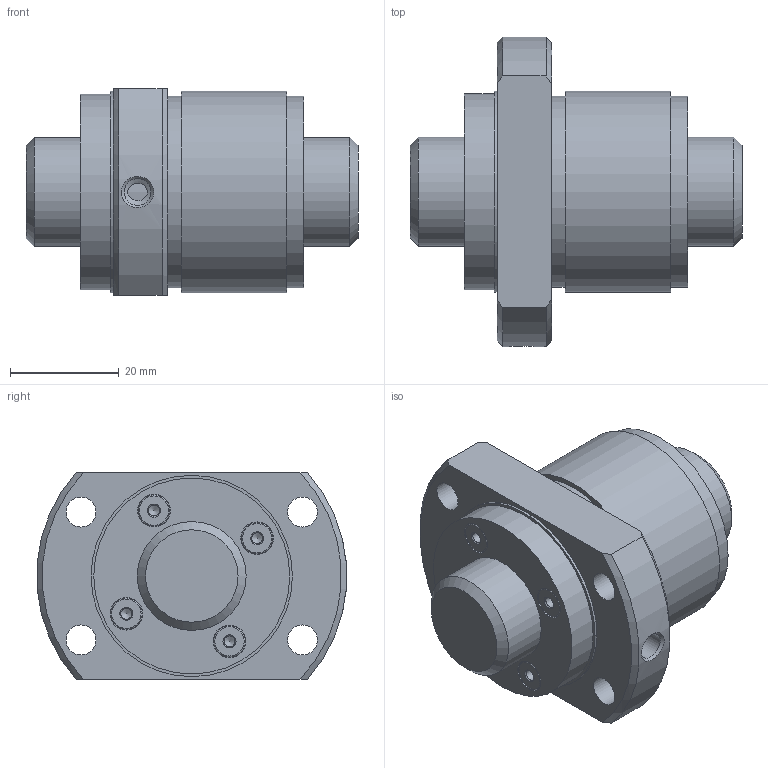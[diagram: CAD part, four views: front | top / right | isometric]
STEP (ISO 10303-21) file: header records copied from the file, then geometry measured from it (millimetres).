
FILE_DESCRIPTION(/* description */ ('STEP AP203'),/* implementation_level */ '2;1');
FILE_NAME(/* name */ 'WGF2040-1G1+61LC3_0_13_0_0',/* time_stamp */ '2025-01-16T06:25:42+01:00',/* author */ ('License CC BY-ND 4.0'),/* organization */ ('CADENAS'),/* preprocessor_version */ 'ST-DEVELOPER v19.3',/* originating_system */ 'PARTsolutions',/* authorisation */ ' ');
FILE_SCHEMA (('CONFIG_CONTROL_DESIGN'));
Length unit declared in the file: millimetre
Products named in the file (3): WGF2040-1G1+61LC3_0_13_0_0; 0130WGF2040-10Shaft; RR0130WGF2040-1Nut
Assembly tree (2 placements, depth 2):
  WGF2040-1G1+61LC3_0_13_0_0
    0130WGF2040-10Shaft
    RR0130WGF2040-1Nut
Bounding box: 61 x 56.91 x 38 mm (x, y, z)
Volume: 57034.6 mm3; surface area: 17197.5 mm2
Topology: 2 solids, 2 shells, 65 faces, 132 edges, 84 vertices
Faces by surface type: cylinder 26, plane 19, cone 16, torus 4
Full cylindrical faces by diameter (mm): 2 x4, 4.917 x1, 5.5 x4, 5.8 x4, 6 x4, 20 x2, 35.15 x2, 36 x1, 37 x2
Entity records: 1585 total; most frequent: CARTESIAN_POINT 278, DIRECTION 276, ORIENTED_EDGE 168, FACE_BOUND 134, AXIS2_PLACEMENT_3D 134, EDGE_LOOP 130, EDGE_CURVE 84, VERTEX_POINT 80
